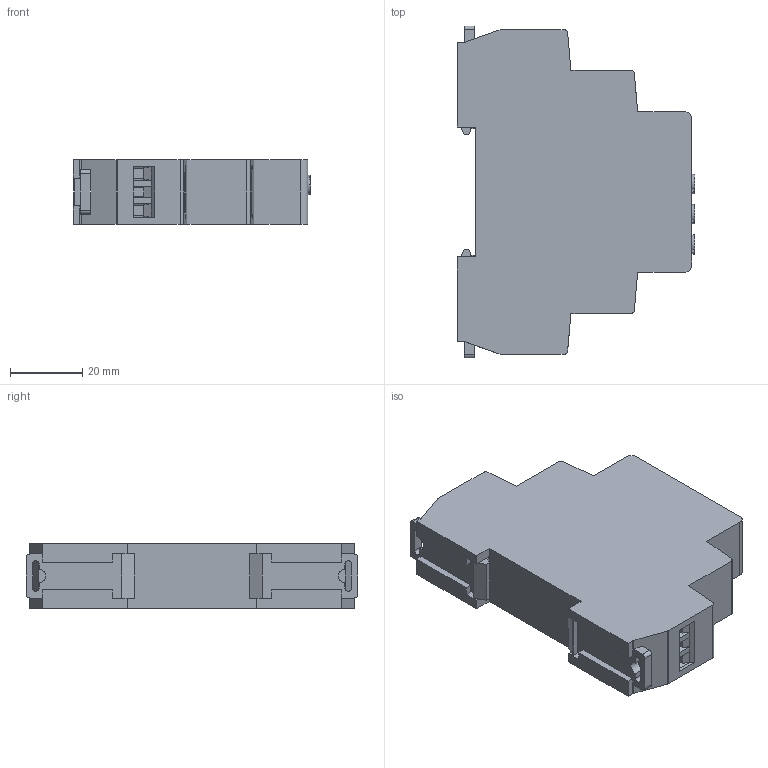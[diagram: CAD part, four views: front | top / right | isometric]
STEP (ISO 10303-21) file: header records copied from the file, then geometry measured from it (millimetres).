
FILE_DESCRIPTION (( 'STEP AP203' ), '1' );
FILE_NAME ('Ðåëå óðîâíÿ æèäêîñòè RL-2ZC.STEP', '2021-11-25T20:43:19', ( '' ), ( '' ), 'SwSTEP 2.0', 'SolidWorks 2017', '' );
FILE_SCHEMA (( 'CONFIG_CONTROL_DESIGN' ));
Length unit declared in the file: millimetre
Products named in the file (1): Ðåëå óðîâíÿ æèäêîñòè RL-2ZC
Bounding box: 65.8 x 92 x 18 mm (x, y, z)
Volume: 79589.1 mm3; surface area: 18530.3 mm2
Topology: 15 solids, 15 shells, 495 faces, 1295 edges, 848 vertices
Faces by surface type: plane 349, cylinder 125, torus 18, sphere 3
Entity records: 15162 total; most frequent: CARTESIAN_POINT 2660, ORIENTED_EDGE 2578, DIRECTION 2553, EDGE_CURVE 1289, LINE 997, VECTOR 997, VERTEX_POINT 845, AXIS2_PLACEMENT_3D 778
